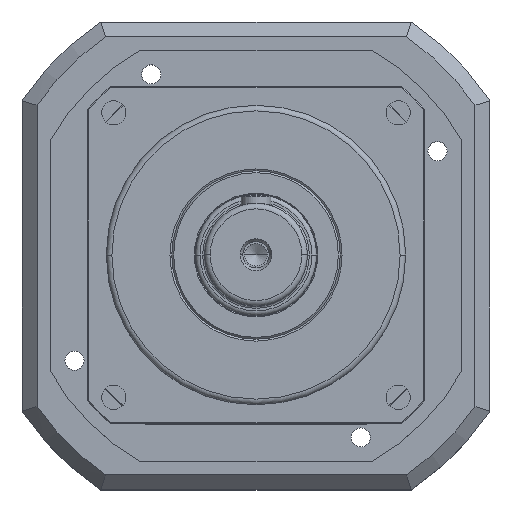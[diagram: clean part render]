
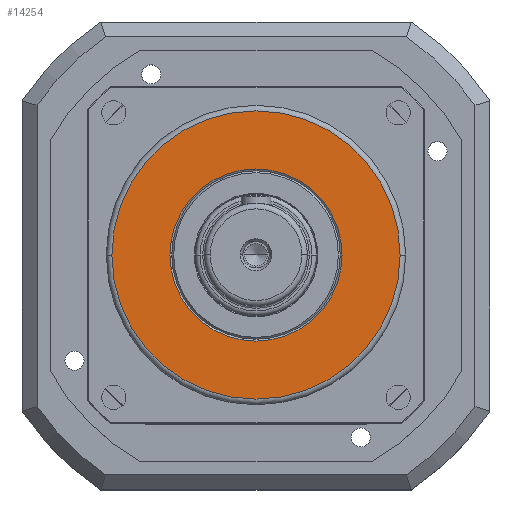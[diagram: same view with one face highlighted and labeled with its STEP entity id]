
A CAD part, top view. The second image highlights one B-rep face of the part: STEP entity #14254.
In plain terms, the highlighted planar face has unit normal (0, 0, 1).
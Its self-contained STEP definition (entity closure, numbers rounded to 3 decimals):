
#1241 = AXIS2_PLACEMENT_3D ( 'NONE', #19037, #19046, #19047 ) ;
#2746 = CARTESIAN_POINT ( 'NONE',  ( 77., 0., 20. ) ) ;
#2768 = CARTESIAN_POINT ( 'NONE',  ( -46., 0., 20. ) ) ;
#2894 = CARTESIAN_POINT ( 'NONE',  ( 46., 0., 20. ) ) ;
#4895 = CIRCLE ( 'NONE', #5635, 46. ) ;
#4901 = CIRCLE ( 'NONE', #5638, 77. ) ;
#5019 = CIRCLE ( 'NONE', #5675, 46. ) ;
#5020 = CIRCLE ( 'NONE', #5676, 77. ) ;
#5635 = AXIS2_PLACEMENT_3D ( 'NONE', #10665, #10666, #10667 ) ;
#5638 = AXIS2_PLACEMENT_3D ( 'NONE', #10675, #10676, #10677 ) ;
#5675 = AXIS2_PLACEMENT_3D ( 'NONE', #11095, #11097, #11099 ) ;
#5676 = AXIS2_PLACEMENT_3D ( 'NONE', #11103, #11105, #11107 ) ;
#6774 = EDGE_LOOP ( 'NONE', ( #17959, #17958 ) ) ;
#6775 = EDGE_LOOP ( 'NONE', ( #17961, #17960 ) ) ;
#7742 = FACE_BOUND ( 'NONE', #6775, .T. ) ;
#7745 = FACE_OUTER_BOUND ( 'NONE', #6774, .T. ) ;
#10665 = CARTESIAN_POINT ( 'NONE',  ( 0., 0., 20. ) ) ;
#10666 = DIRECTION ( 'NONE',  ( 0., 0., -1. ) ) ;
#10667 = DIRECTION ( 'NONE',  ( 1., 0., 0. ) ) ;
#10675 = CARTESIAN_POINT ( 'NONE',  ( 0., 0., 20. ) ) ;
#10676 = DIRECTION ( 'NONE',  ( 0., 0., 1. ) ) ;
#10677 = DIRECTION ( 'NONE',  ( 1., 0., 0. ) ) ;
#11095 = CARTESIAN_POINT ( 'NONE',  ( 0., 0., 20. ) ) ;
#11097 = DIRECTION ( 'NONE',  ( 0., 0., -1. ) ) ;
#11099 = DIRECTION ( 'NONE',  ( 1., 0., 0. ) ) ;
#11103 = CARTESIAN_POINT ( 'NONE',  ( 0., 0., 20. ) ) ;
#11105 = DIRECTION ( 'NONE',  ( 0., 0., 1. ) ) ;
#11107 = DIRECTION ( 'NONE',  ( 1., 0., 0. ) ) ;
#13475 = VERTEX_POINT ( 'NONE', #16211 ) ;
#14254 = ADVANCED_FACE ( 'NONE', ( #7742, #7745 ), #19041, .T. ) ;
#16211 = CARTESIAN_POINT ( 'NONE',  ( -77., 0., 20. ) ) ;
#16865 = VERTEX_POINT ( 'NONE', #2746 ) ;
#16891 = VERTEX_POINT ( 'NONE', #2768 ) ;
#17018 = VERTEX_POINT ( 'NONE', #2894 ) ;
#17958 = ORIENTED_EDGE ( 'NONE', *, *, #19727, .T. ) ;
#17959 = ORIENTED_EDGE ( 'NONE', *, *, #19649, .T. ) ;
#17960 = ORIENTED_EDGE ( 'NONE', *, *, #19726, .T. ) ;
#17961 = ORIENTED_EDGE ( 'NONE', *, *, #19645, .T. ) ;
#19037 = CARTESIAN_POINT ( 'NONE',  ( 0., 0., 20. ) ) ;
#19041 = PLANE ( 'NONE',  #1241 ) ;
#19046 = DIRECTION ( 'NONE',  ( 0., 0., 1. ) ) ;
#19047 = DIRECTION ( 'NONE',  ( 1., 0., 0. ) ) ;
#19645 = EDGE_CURVE ( 'NONE', #17018, #16891, #4895, .T. ) ;
#19649 = EDGE_CURVE ( 'NONE', #16865, #13475, #4901, .T. ) ;
#19726 = EDGE_CURVE ( 'NONE', #16891, #17018, #5019, .T. ) ;
#19727 = EDGE_CURVE ( 'NONE', #13475, #16865, #5020, .T. ) ;
